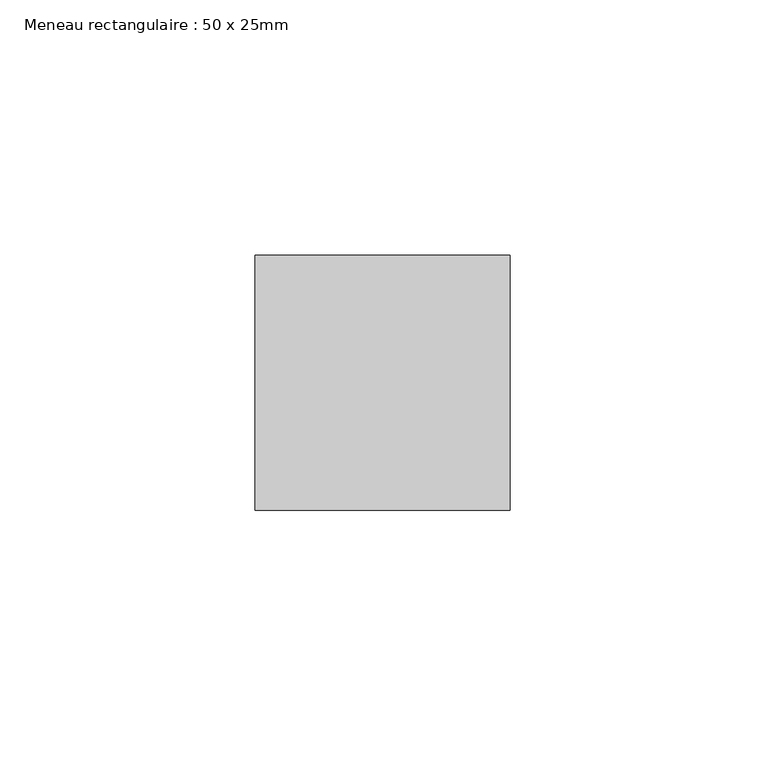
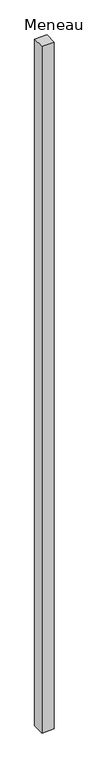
"""IFC4 building model written with IfcOpenShell, lengths in millimetres: member geometry, Meneau rectangulaire : 50 x 25mm."""

import ifcopenshell
import ifcopenshell.guid

model = None  # the IFC model being written
_history = None  # IfcOwnerHistory: only IFC2X3 demands one
_inside = {}  # id of a spatial element -> (the spatial element, [elements in it])
_under = {}  # id of a project, library or spatial element -> (it, [spatial elements below it])
_declared = {}  # id of a project -> (the project, [libraries it declares])
_typed = {}  # id of a type object -> (the type object, [elements of that type])
_made_of = {}  # id of a material, layer set ... -> (it, [elements and type objects made of it])


def new_model(schema):
    """Start an empty IFC model of exactly this schema.

    Asked for "IFC4X3", IfcOpenShell would pick the latest addendum, in which some entities
    have other attributes; the version numbers below select the first issue.
    IFC2X3 requires an IfcOwnerHistory on every rooted entity: one is made here for all.
    """
    global model, _history
    if schema == "IFC4X3":
        model = ifcopenshell.file(schema_version=(4, 3, 0, 0))
    else:
        model = ifcopenshell.file(schema=schema)
    _inside.clear()
    _under.clear()
    _declared.clear()
    _typed.clear()
    _made_of.clear()
    _history = None
    if model.schema == "IFC2X3":
        org = make("IfcOrganization", Name="unknown")
        user = make(
            "IfcPersonAndOrganization",
            ThePerson=make("IfcPerson", FamilyName="unknown"),
            TheOrganization=org,
        )
        app = make(
            "IfcApplication",
            ApplicationDeveloper=org,
            Version="unknown",
            ApplicationFullName="unknown",
            ApplicationIdentifier="unknown",
        )
        _history = make(
            "IfcOwnerHistory",
            OwningUser=user,
            OwningApplication=app,
            ChangeAction="ADDED",
            CreationDate=0,
        )
    return model


def make(cls, **values):
    """One entity of the class cls with the attributes given. An attribute that is None is left unset."""
    return model.create_entity(
        cls, **{name: value for name, value in values.items() if value is not None}
    )


def rooted(cls, **values):
    """An entity with a GlobalId (a new one), such as an element, a storey or a relation."""
    return make(cls, GlobalId=ifcopenshell.guid.new(), OwnerHistory=_history, **values)


def si_unit(unit_type, name, prefix=None):
    """IfcSIUnit, for example si_unit("LENGTHUNIT", "METRE", prefix="MILLI")."""
    return make("IfcSIUnit", UnitType=unit_type, Prefix=prefix, Name=name)


def assignment(units):
    """IfcUnitAssignment: the units of a project."""
    return None if units is None else make("IfcUnitAssignment", Units=units)


def point(xyz):
    """IfcCartesianPoint."""
    return None if xyz is None else make("IfcCartesianPoint", Coordinates=xyz)


def direction(xyz):
    """IfcDirection."""
    return None if xyz is None else make("IfcDirection", DirectionRatios=xyz)


def frame(location, z_axis=None, x_axis=None):
    """IfcAxis2Placement3D, a coordinate frame: its origin and axes. An axis left out is left unset."""
    return make(
        "IfcAxis2Placement3D",
        Location=point(location),
        Axis=direction(z_axis),
        RefDirection=direction(x_axis),
    )


def origin():
    """The frame at (0, 0, 0) with its axes left unset."""
    return frame((0.0, 0.0, 0.0))


def place(relative_to, where):
    """IfcLocalPlacement: puts the frame where relative to a parent placement (None: the world)."""
    return make(
        "IfcLocalPlacement", PlacementRelTo=relative_to, RelativePlacement=where
    )


def context(
    kind, dimensions, precision=None, world=None, true_north=None, identifier=None
):
    """IfcGeometricRepresentationContext, for example the 3D "Model" context."""
    return make(
        "IfcGeometricRepresentationContext",
        ContextIdentifier=identifier,
        ContextType=kind,
        CoordinateSpaceDimension=dimensions,
        Precision=precision,
        WorldCoordinateSystem=world,
        TrueNorth=true_north,
    )


def project(units=None, contexts=None):
    """IfcProject with its units and contexts."""
    return rooted(
        "IfcProject",
        Name="project",
        RepresentationContexts=contexts,
        UnitsInContext=assignment(units),
    )


def spatial(cls, under=None, at=None, **own):
    """A site, building, storey or space (cls), placed at a placement, below another one or the project."""
    s = rooted(cls, ObjectPlacement=at, **own)
    if under is not None:
        _under.setdefault(under.id(), (under, []))[1].append(s)
    return s


def polyline(points):
    """IfcPolyline through the points."""
    return make("IfcPolyline", Points=[point(p) for p in points])


def outline(outer, holes=None, kind="AREA"):
    """IfcArbitraryClosedProfileDef: a profile drawn as a closed curve; with holes, ...WithVoids."""
    if holes is None:
        return make("IfcArbitraryClosedProfileDef", ProfileType=kind, OuterCurve=outer)
    return make(
        "IfcArbitraryProfileDefWithVoids",
        ProfileType=kind,
        OuterCurve=outer,
        InnerCurves=holes,
    )


def extrude(swept, where, along, depth):
    """IfcExtrudedAreaSolid: the profile swept, set in the frame where, extruded along a direction by depth."""
    return make(
        "IfcExtrudedAreaSolid",
        SweptArea=swept,
        Position=where,
        ExtrudedDirection=direction(along),
        Depth=depth,
    )


def shape(context_of_items, identifier, shape_type, items):
    """IfcShapeRepresentation: the items that make up one representation, for example the "Body"."""
    return make(
        "IfcShapeRepresentation",
        ContextOfItems=context_of_items,
        RepresentationIdentifier=identifier,
        RepresentationType=shape_type,
        Items=items,
    )


def source(mapping_origin, context_of_items, identifier, shape_type, items):
    """IfcRepresentationMap: a shape defined once, which mapped items show again and again."""
    return make(
        "IfcRepresentationMap",
        MappingOrigin=mapping_origin,
        MappedRepresentation=shape(context_of_items, identifier, shape_type, items),
    )


def transform(
    local_origin,
    x_axis=None,
    y_axis=None,
    z_axis=None,
    scale=None,
    scale2=None,
    scale3=None,
    uniform=True,
):
    """IfcCartesianTransformationOperator3D, or its non-uniform kind. x_axis, y_axis, z_axis: its Axis1, 2, 3."""
    if uniform:
        return make(
            "IfcCartesianTransformationOperator3D",
            Axis1=direction(x_axis),
            Axis2=direction(y_axis),
            LocalOrigin=point(local_origin),
            Scale=scale,
            Axis3=direction(z_axis),
        )
    return make(
        "IfcCartesianTransformationOperator3DnonUniform",
        Axis1=direction(x_axis),
        Axis2=direction(y_axis),
        LocalOrigin=point(local_origin),
        Scale=scale,
        Axis3=direction(z_axis),
        Scale2=scale2,
        Scale3=scale3,
    )


def mapped(mapping_source, mapping_target):
    """IfcMappedItem: shows the shape of a source again, moved by a transform."""
    return make(
        "IfcMappedItem", MappingSource=mapping_source, MappingTarget=mapping_target
    )


def made_of(thing, what):
    """Note that an element or type object is made of a material, layer set ...; save() writes the relation."""
    if what is not None:
        _made_of.setdefault(what.id(), (what, []))[1].append(thing)
    return thing


def element(
    cls,
    number,
    at=None,
    inside=None,
    cuts=None,
    type_object=None,
    material=None,
    context=None,
    identifier="Body",
    shape_type=None,
    held_by="IfcProductDefinitionShape",
    body=None,
    shapes=None,
    **own,
):
    """One element of the class cls, such as IfcWall. Its Tag is "e" and its number.

    at: its placement. inside: the storey or other place that contains it. cuts: it is an
    opening in that element (IfcRelVoidsElement). A single representation is given by context,
    identifier, shape_type and body (its items); several are given by shapes. held_by: the class
    of the entity that holds the representations. save() writes the other relations.
    """
    e = rooted(cls, Tag="e%d" % number, ObjectPlacement=at, **own)
    if body is not None:
        shapes = [shape(context, identifier, shape_type, body)]
    if shapes is not None:
        e.Representation = make(held_by, Representations=shapes)
    if inside is not None:
        _inside.setdefault(inside.id(), (inside, []))[1].append(e)
    if cuts is not None:
        rooted(
            "IfcRelVoidsElement", RelatingBuildingElement=cuts, RelatedOpeningElement=e
        )
    if type_object is not None:
        _typed.setdefault(type_object.id(), (type_object, []))[1].append(e)
    return made_of(e, material)


def aggregate(whole, parts):
    """IfcRelAggregates: a whole, such as a stair, and the parts it consists of."""
    return rooted("IfcRelAggregates", RelatingObject=whole, RelatedObjects=parts)


def save(model, path):
    """Write the relations noted so far, then the file.

    IfcRelAggregates (storeys below a building ...), IfcRelContainedInSpatialStructure (elements
    in a storey), IfcRelDefinesByType, IfcRelAssociatesMaterial and IfcRelDeclares: one each for
    every whole, place, type object, material and project.
    """
    for whole, parts in _under.values():
        aggregate(whole, parts)
    for where, things in _inside.values():
        rooted(
            "IfcRelContainedInSpatialStructure",
            RelatedElements=things,
            RelatingStructure=where,
        )
    for kind, things in _typed.values():
        rooted("IfcRelDefinesByType", RelatedObjects=things, RelatingType=kind)
    for what, things in _made_of.values():
        rooted("IfcRelAssociatesMaterial", RelatedObjects=things, RelatingMaterial=what)
    for by, libraries in _declared.values():
        rooted("IfcRelDeclares", RelatingContext=by, RelatedDefinitions=libraries)
    model.write(path)


def meneau_rectangulaire_50_x_25mm_7fce3c94(model_context):
    return source(origin(), model_context, "Body", "SweptSolid", [
        extrude(outline(polyline([(25.0, 0.0), (25.0, -50.0), (-25.0, -50.0), (-25.0, 0.0), (25.0, 0.0)])), frame((0.0, 0.0, -2929.7456561), z_axis=(0.0, 0.0, 1.0), x_axis=(1.0, 0.0, 0.0)), (0.0, 0.0, 1.0), 2929.7456561),
    ])


if __name__ == "__main__":
    model = new_model("IFC4")
    model_context = context("Model", 3, world=origin())
    ifc_project = project(units=[si_unit("LENGTHUNIT", "METRE", prefix="MILLI")], contexts=[model_context])
    site = spatial("IfcSite", under=ifc_project)
    building = spatial("IfcBuilding", under=site)
    placement = place(None, origin())
    meneau_rectangulaire_50_x_25mm_shape = meneau_rectangulaire_50_x_25mm_7fce3c94(model_context)
    element("IfcMember", 1, ObjectType="Meneau rectangulaire : 50 x 25mm", at=placement, inside=building, context=model_context, shape_type="MappedRepresentation", body=[
        mapped(meneau_rectangulaire_50_x_25mm_shape, transform((0.0, 0.0, 0.0), x_axis=(1.0, 0.0, 0.0), y_axis=(0.0, 1.0, 0.0), z_axis=(0.0, 0.0, 1.0))),
    ])
    save(model, "model.ifc")
